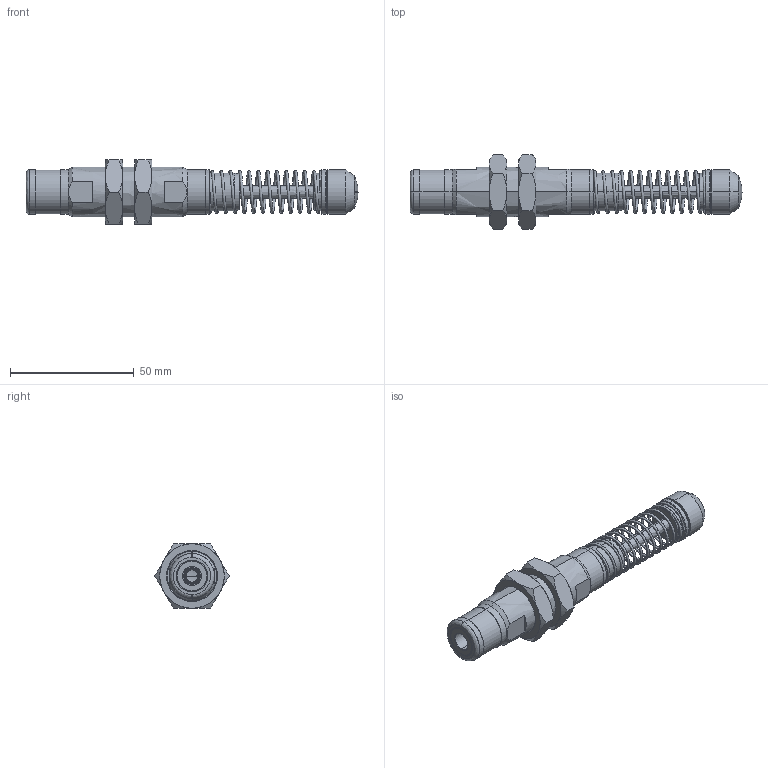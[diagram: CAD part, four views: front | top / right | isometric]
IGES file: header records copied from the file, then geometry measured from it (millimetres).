
Start section: SolidWorks IGES file using analytic representation for surfaces
Global section: file name: D:\IGS跡宒\AC2030-5K.IGS,1; native system: 5HSolidWorks 2013; preprocessor: SolidWorks 2013; author: Administrator; date: 160406.154203; units: inch
Bounding box: 133.9 x 30.02 x 26 mm (x, y, z)
Surface area: 12915.9 mm2 (no closed solid volume)
Topology: 0 solids, 0 shells, 136 faces, 2190 edges, 2189 vertices
Faces by surface type: revolution 90, bspline 46
